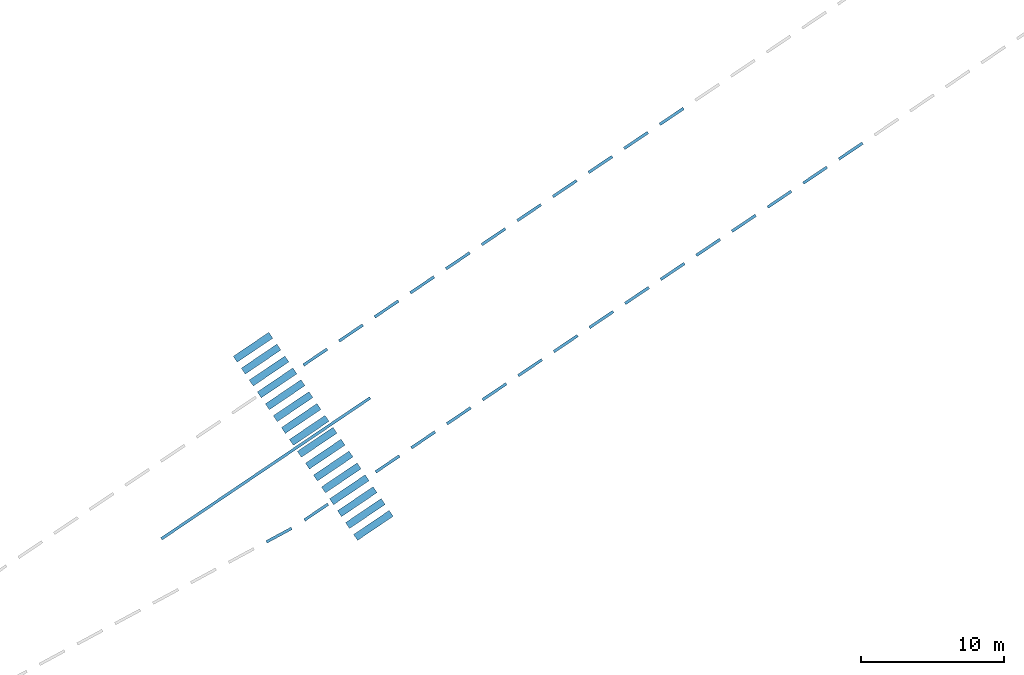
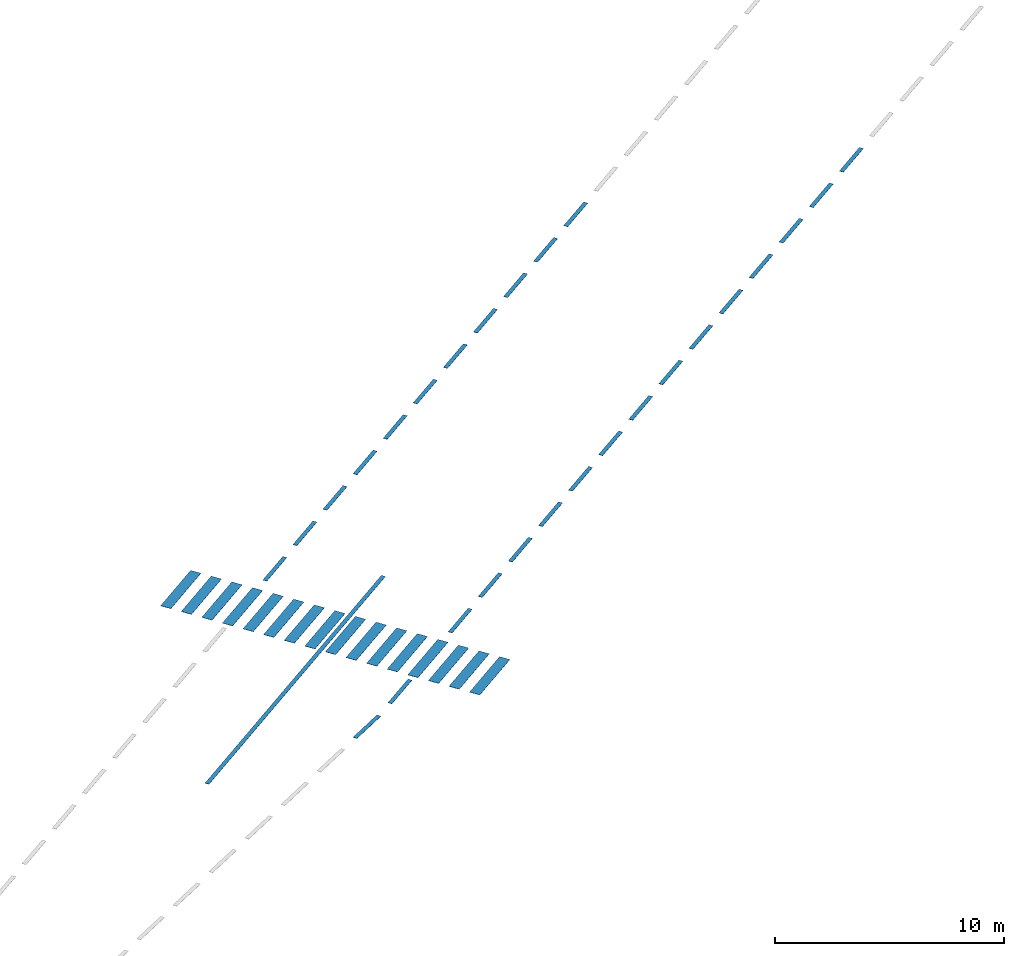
# One storey, part 88 of 157: 44 walls.
"""IFC2X3 building model written with IfcOpenShell, lengths in millimetres."""

from ifc_helpers import new_model, entity, si_unit, converted_unit, derived_unit, direction, frame, frame_2d, origin, origin_2d_with_axis, place, context, subcontext, project, spatial, rectangle, extrude, material, type_object, element, save


model = new_model("IFC2X3")

# Units and contexts
model_context = context("Model", 3, precision=0.01, world=origin(), true_north=direction((6.123031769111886e-17, 1.0)))
body_context = subcontext(model_context, "Body", "Model", "MODEL_VIEW")
ifc_project = project(units=[si_unit("LENGTHUNIT", "METRE", prefix="MILLI"), si_unit("AREAUNIT", "SQUARE_METRE"), si_unit("VOLUMEUNIT", "CUBIC_METRE"), converted_unit("PLANEANGLEUNIT", "DEGREE", entity("IfcRatioMeasure", 0.017453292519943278), si_unit("PLANEANGLEUNIT", "RADIAN"), dimensions=[0, 0, 0, 0, 0, 0, 0]), si_unit("MASSUNIT", "GRAM", prefix="KILO"), derived_unit("MASSDENSITYUNIT", [(si_unit("MASSUNIT", "GRAM", prefix="KILO"), 1), (si_unit("LENGTHUNIT", "METRE"), -3)]), derived_unit("MOMENTOFINERTIAUNIT", [(si_unit("LENGTHUNIT", "METRE"), 4)]), si_unit("TIMEUNIT", "SECOND"), si_unit("FREQUENCYUNIT", "HERTZ"), si_unit("THERMODYNAMICTEMPERATUREUNIT", "DEGREE_CELSIUS"), derived_unit("THERMALTRANSMITTANCEUNIT", [(si_unit("MASSUNIT", "GRAM", prefix="KILO"), 1), (si_unit("THERMODYNAMICTEMPERATUREUNIT", "KELVIN"), -1), (si_unit("TIMEUNIT", "SECOND"), -3)]), derived_unit("THERMALCONDUCTANCEUNIT", [(si_unit("MASSUNIT", "GRAM", prefix="KILO"), 1), (si_unit("LENGTHUNIT", "METRE"), 1), (si_unit("THERMODYNAMICTEMPERATUREUNIT", "KELVIN"), -1), (si_unit("TIMEUNIT", "SECOND"), -3)]), derived_unit("VOLUMETRICFLOWRATEUNIT", [(si_unit("LENGTHUNIT", "METRE"), 3), (si_unit("TIMEUNIT", "SECOND"), -1)]), derived_unit("MASSFLOWRATEUNIT", [(si_unit("MASSUNIT", "GRAM", prefix="KILO"), 1), (si_unit("TIMEUNIT", "SECOND"), -1)]), derived_unit("ROTATIONALFREQUENCYUNIT", [(si_unit("TIMEUNIT", "SECOND"), -1)]), si_unit("ELECTRICCURRENTUNIT", "AMPERE"), si_unit("ELECTRICVOLTAGEUNIT", "VOLT"), si_unit("POWERUNIT", "WATT"), converted_unit("FORCEUNIT", "KIP", entity("IfcRatioMeasure", 2.088543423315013e-05), si_unit("FORCEUNIT", "NEWTON"), dimensions=[1, 1, -2, 0, 0, 0, 0]), si_unit("ILLUMINANCEUNIT", "LUX"), si_unit("LUMINOUSFLUXUNIT", "LUMEN"), si_unit("LUMINOUSINTENSITYUNIT", "CANDELA"), derived_unit("USERDEFINED", [(si_unit("MASSUNIT", "GRAM", prefix="KILO"), -1), (si_unit("LENGTHUNIT", "METRE"), -2), (si_unit("TIMEUNIT", "SECOND"), 3), (si_unit("LUMINOUSFLUXUNIT", "LUMEN"), 1)]), derived_unit("USERDEFINED", [(si_unit("MASSUNIT", "GRAM", prefix="KILO"), 1), (si_unit("LENGTHUNIT", "METRE"), 3), (si_unit("TIMEUNIT", "SECOND"), -3), (si_unit("ELECTRICCURRENTUNIT", "AMPERE"), -2)]), derived_unit("USERDEFINED", [(si_unit("LENGTHUNIT", "METRE"), 2), (si_unit("TIMEUNIT", "SECOND"), -2)]), derived_unit("SOUNDPOWERUNIT", [(si_unit("MASSUNIT", "GRAM", prefix="KILO"), 1), (si_unit("LENGTHUNIT", "METRE"), 2), (si_unit("TIMEUNIT", "SECOND"), -3)]), derived_unit("SOUNDPRESSUREUNIT", [(si_unit("MASSUNIT", "GRAM", prefix="KILO"), 1), (si_unit("LENGTHUNIT", "METRE"), -1), (si_unit("TIMEUNIT", "SECOND"), -2)]), derived_unit("LINEARVELOCITYUNIT", [(si_unit("LENGTHUNIT", "METRE"), 1), (si_unit("TIMEUNIT", "SECOND"), -1)]), si_unit("PRESSUREUNIT", "PASCAL"), derived_unit("USERDEFINED", [(si_unit("LENGTHUNIT", "METRE"), -2), (si_unit("MASSUNIT", "GRAM", prefix="KILO"), 1), (si_unit("TIMEUNIT", "SECOND"), -2)]), derived_unit("LINEARFORCEUNIT", [(si_unit("MASSUNIT", "GRAM", prefix="KILO"), 1), (si_unit("LENGTHUNIT", "METRE"), 1), (si_unit("TIMEUNIT", "SECOND"), -2), (si_unit("LENGTHUNIT", "METRE"), -1)]), derived_unit("PLANARFORCEUNIT", [(si_unit("MASSUNIT", "GRAM", prefix="KILO"), 1), (si_unit("LENGTHUNIT", "METRE"), 1), (si_unit("TIMEUNIT", "SECOND"), -2), (si_unit("LENGTHUNIT", "METRE"), -2)]), derived_unit("SPECIFICHEATCAPACITYUNIT", [(si_unit("LENGTHUNIT", "METRE"), 2), (si_unit("TIMEUNIT", "SECOND"), -2), (si_unit("THERMODYNAMICTEMPERATUREUNIT", "KELVIN"), -1)]), derived_unit("VAPORPERMEABILITYUNIT", [(si_unit("TIMEUNIT", "SECOND"), 1), (si_unit("LENGTHUNIT", "METRE"), -1)]), derived_unit("DYNAMICVISCOSITYUNIT", [(si_unit("MASSUNIT", "GRAM", prefix="KILO"), 1), (si_unit("LENGTHUNIT", "METRE"), -1), (si_unit("TIMEUNIT", "SECOND"), -1)]), derived_unit("THERMALEXPANSIONCOEFFICIENTUNIT", [(si_unit("THERMODYNAMICTEMPERATUREUNIT", "KELVIN"), -1)])], contexts=[model_context])

# Site, building, storey
site_placement = place(None, frame((0.0, 0.0, 0.0), z_axis=(0.0, 0.0, 1.0), x_axis=(0.8191520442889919, 0.5735764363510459, 0.0)))
site = spatial("IfcSite", under=ifc_project, at=site_placement, Name="Default", CompositionType="ELEMENT")
building_placement = place(site_placement, origin())
building = spatial("IfcBuilding", under=site, at=building_placement, CompositionType="ELEMENT")
storey_placement = place(building_placement, origin())
storey = spatial("IfcBuildingStorey", under=building, at=storey_placement, Name="1.EG +0.00", CompositionType="ELEMENT", Elevation=-4.331468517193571e-12)

# Walls
ifc_material = material(Name="road_markirovka")
wall_type_1 = type_object("IfcWallType", Name="81", PredefinedType="NOTDEFINED", material=ifc_material)
wall_1_placement = place(storey_placement, frame((-110577.95410964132, -164288.4628362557, 350.0)))
element("IfcWall", 1, at=wall_1_placement, inside=storey, type_object=wall_type_1, material=ifc_material, Name="81 203486:81 203486", ObjectType="81 203486:81 203486", context=body_context, shape_type="SweptSolid", body=[
    extrude(rectangle(XDim=199.99999999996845, YDim=1999.999999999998, at=frame_2d((1.745803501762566e-11, -8.412825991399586e-12), x_axis=(1.0, 0.0))), frame((1001.5414149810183, 116.81643027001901, 0.0), z_axis=(0.0, 0.0, 1.0), x_axis=(0.016830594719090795, 0.99985835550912, 0.0)), (0.0, 0.0, 1.0), 9.999999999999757),
])
wall_type_2 = type_object("IfcWallType", Name="81", PredefinedType="NOTDEFINED", material=ifc_material)
wall_2_placement = place(storey_placement, frame((-113577.52917616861, -164237.97105209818, 350.0)))
element("IfcWall", 2, at=wall_2_placement, inside=storey, type_object=wall_type_2, material=ifc_material, Name="81 203492:81 203492", ObjectType="81 203492:81 203492", context=body_context, shape_type="SweptSolid", body=[
    extrude(rectangle(XDim=200.0000000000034, YDim=1999.999999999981, at=frame_2d((1.4921397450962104e-13, -8.640199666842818e-12), x_axis=(1.0, 0.0))), frame((1001.5414149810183, 116.81643027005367, 0.0), z_axis=(0.0, 0.0, 1.0), x_axis=(0.016830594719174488, 0.9998583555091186, 0.0)), (0.0, 0.0, 1.0), 9.999999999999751),
])
wall_type_3 = type_object("IfcWallType", Name="81", PredefinedType="NOTDEFINED", material=ifc_material)
wall_3_placement = place(storey_placement, frame((-116577.10424269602, -164187.47926794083, 350.0)))
element("IfcWall", 3, at=wall_3_placement, inside=storey, type_object=wall_type_3, material=ifc_material, Name="81 203493:81 203493", ObjectType="81 203493:81 203493", context=body_context, shape_type="SweptSolid", body=[
    extrude(rectangle(XDim=200.0000000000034, YDim=1999.999999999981, at=frame_2d((1.4921397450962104e-13, -8.640199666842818e-12), x_axis=(1.0, 0.0))), frame((1001.5414149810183, 116.81643027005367, 0.0), z_axis=(0.0, 0.0, 1.0), x_axis=(0.016830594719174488, 0.9998583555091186, 0.0)), (0.0, 0.0, 1.0), 9.999999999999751),
])
wall_type_4 = type_object("IfcWallType", Name="81", PredefinedType="NOTDEFINED", material=ifc_material)
wall_4_placement = place(storey_placement, frame((-119576.67930922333, -164136.9874837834, 350.0)))
element("IfcWall", 4, at=wall_4_placement, inside=storey, type_object=wall_type_4, material=ifc_material, Name="81 203505:81 203505", ObjectType="81 203505:81 203505", context=body_context, shape_type="SweptSolid", body=[
    extrude(rectangle(XDim=200.0000000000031, YDim=2000.000000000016, at=origin_2d_with_axis()), frame((1001.5414149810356, 116.81643027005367, 0.0), z_axis=(0.0, 0.0, 1.0), x_axis=(0.01683059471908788, 0.9998583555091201, 0.0)), (0.0, 0.0, 1.0), 9.999999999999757),
])
wall_type_5 = type_object("IfcWallType", Name="81", PredefinedType="NOTDEFINED", material=ifc_material)
wall_5_placement = place(storey_placement, frame((-122576.25437575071, -164086.495699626, 350.0)))
element("IfcWall", 5, at=wall_5_placement, inside=storey, type_object=wall_type_5, material=ifc_material, Name="81 203507:81 203507", ObjectType="81 203507:81 203507", context=body_context, shape_type="SweptSolid", body=[
    extrude(rectangle(XDim=199.9999999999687, YDim=1999.9999999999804, at=frame_2d((-1.730882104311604e-11, -2.2737367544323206e-13), x_axis=(1.0, 0.0))), frame((1001.5414149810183, 116.81643027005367, 0.0), z_axis=(0.0, 0.0, 1.0), x_axis=(0.0168305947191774, 0.9998583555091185, 0.0)), (0.0, 0.0, 1.0), 9.999999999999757),
])
wall_type_6 = type_object("IfcWallType", Name="81", PredefinedType="NOTDEFINED", material=ifc_material)
wall_6_placement = place(storey_placement, frame((-125575.829442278, -164036.0039154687, 350.0)))
element("IfcWall", 6, at=wall_6_placement, inside=storey, type_object=wall_type_6, material=ifc_material, Name="81 203523:81 203523", ObjectType="81 203523:81 203523", context=body_context, shape_type="SweptSolid", body=[
    extrude(rectangle(XDim=200.0000000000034, YDim=1999.999999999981, at=frame_2d((-2.913225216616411e-13, 1.7337242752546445e-11), x_axis=(1.0, 0.0))), frame((1001.5414149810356, 116.81643027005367, 0.0), z_axis=(0.0, 0.0, 1.0), x_axis=(0.016830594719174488, 0.9998583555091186, 0.0)), (0.0, 0.0, 1.0), 9.999999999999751),
])
wall_type_7 = type_object("IfcWallType", Name="81", PredefinedType="NOTDEFINED", material=ifc_material)
wall_7_placement = place(storey_placement, frame((-128575.40450880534, -163985.5121313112, 350.0)))
element("IfcWall", 7, at=wall_7_placement, inside=storey, type_object=wall_type_7, material=ifc_material, Name="81 203526:81 203526", ObjectType="81 203526:81 203526", context=body_context, shape_type="SweptSolid", body=[
    extrude(rectangle(XDim=200.0000000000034, YDim=1999.9999999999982, at=origin_2d_with_axis()), frame((1001.5414149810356, 116.81643027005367, 0.0), z_axis=(0.0, 0.0, 1.0), x_axis=(0.016830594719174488, 0.9998583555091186, 0.0)), (0.0, 0.0, 1.0), 9.999999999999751),
])
wall_type_8 = type_object("IfcWallType", Name="81", PredefinedType="NOTDEFINED", material=ifc_material)
wall_8_placement = place(storey_placement, frame((-134574.55464186, -163884.5285629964, 350.0)))
element("IfcWall", 8, at=wall_8_placement, inside=storey, type_object=wall_type_8, material=ifc_material, Name="81 203530:81 203530", ObjectType="81 203530:81 203530", context=body_context, shape_type="SweptSolid", body=[
    extrude(rectangle(XDim=200.00000000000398, YDim=2000.0000000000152, at=frame_2d((-1.4210854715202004e-13, 8.697043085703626e-12), x_axis=(1.0, 0.0))), frame((1001.541414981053, 116.81643027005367, 0.0), z_axis=(0.0, 0.0, 1.0), x_axis=(0.016830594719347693, 0.9998583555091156, 0.0)), (0.0, 0.0, 1.0), 9.999999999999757),
])
wall_type_9 = type_object("IfcWallType", Name="81", PredefinedType="NOTDEFINED", material=ifc_material)
wall_9_placement = place(storey_placement, frame((-131574.97957533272, -163935.0203471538, 350.0)))
element("IfcWall", 9, at=wall_9_placement, inside=storey, type_object=wall_type_9, material=ifc_material, Name="81 203533:81 203533", ObjectType="81 203533:81 203533", context=body_context, shape_type="SweptSolid", body=[
    extrude(rectangle(XDim=199.9999999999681, YDim=2000.0000000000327, at=frame_2d((1.7614354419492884e-11, -1.6996182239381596e-11), x_axis=(1.0, 0.0))), frame((1001.5414149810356, 116.81643027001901, 0.0), z_axis=(0.0, 0.0, 1.0), x_axis=(0.01683059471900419, 0.9998583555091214, 0.0)), (0.0, 0.0, 1.0), 9.999999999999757),
])
wall_type_10 = type_object("IfcWallType", Name="81", PredefinedType="NOTDEFINED", material=ifc_material)
wall_10_placement = place(storey_placement, frame((-137574.12970838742, -163834.03677883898, 350.0)))
element("IfcWall", 10, at=wall_10_placement, inside=storey, type_object=wall_type_10, material=ifc_material, Name="81 203534:81 203534", ObjectType="81 203534:81 203534", context=body_context, shape_type="SweptSolid", body=[
    extrude(rectangle(XDim=200.00000000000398, YDim=1999.999999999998, at=frame_2d((-1.4210854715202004e-13, 8.640199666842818e-12), x_axis=(1.0, 0.0))), frame((1001.541414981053, 116.81643027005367, 0.0), z_axis=(0.0, 0.0, 1.0), x_axis=(0.016830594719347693, 0.9998583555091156, 0.0)), (0.0, 0.0, 1.0), 9.999999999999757),
])
wall_type_11 = type_object("IfcWallType", Name="81", PredefinedType="NOTDEFINED", material=ifc_material)
wall_11_placement = place(storey_placement, frame((-140573.70477491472, -163783.54499468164, 350.0)))
element("IfcWall", 11, at=wall_11_placement, inside=storey, type_object=wall_type_11, material=ifc_material, Name="81 203536:81 203536", ObjectType="81 203536:81 203536", context=body_context, shape_type="SweptSolid", body=[
    extrude(rectangle(XDim=200.00000000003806, YDim=1999.999999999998, at=frame_2d((-1.7330137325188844e-11, -2.2737367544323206e-13), x_axis=(1.0, 0.0))), frame((1001.5414149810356, 116.81643027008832, 0.0), z_axis=(0.0, 0.0, 1.0), x_axis=(0.01683059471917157, 0.9998583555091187, 0.0)), (0.0, 0.0, 1.0), 9.999999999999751),
])
wall_type_12 = type_object("IfcWallType", Name="81", PredefinedType="NOTDEFINED", material=ifc_material)
wall_12_placement = place(storey_placement, frame((-146572.85490796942, -163682.5614263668, 350.0)))
element("IfcWall", 12, at=wall_12_placement, inside=storey, type_object=wall_type_12, material=ifc_material, Name="81 203539:81 203539", ObjectType="81 203539:81 203539", context=body_context, shape_type="SweptSolid", body=[
    extrude(rectangle(XDim=199.99999999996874, YDim=2000.0000000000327, at=frame_2d((1.716671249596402e-11, 8.924416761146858e-12), x_axis=(1.0, 0.0))), frame((1001.5414149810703, 116.81643027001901, 0.0), z_axis=(0.0, 0.0, 1.0), x_axis=(0.0168305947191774, 0.9998583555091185, 0.0)), (0.0, 0.0, 1.0), 9.999999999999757),
])
wall_type_13 = type_object("IfcWallType", Name="81", PredefinedType="NOTDEFINED", material=ifc_material)
wall_13_placement = place(storey_placement, frame((-143573.279841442, -163733.05321052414, 350.0)))
element("IfcWall", 13, at=wall_13_placement, inside=storey, type_object=wall_type_13, material=ifc_material, Name="81 203541:81 203541", ObjectType="81 203541:81 203541", context=body_context, shape_type="SweptSolid", body=[
    extrude(rectangle(XDim=199.9999999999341, YDim=2000.0000000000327, at=frame_2d((-1.4210854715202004e-13, 8.640199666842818e-12), x_axis=(1.0, 0.0))), frame((1001.5414149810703, 116.81643027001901, 0.0), z_axis=(0.0, 0.0, 1.0), x_axis=(0.01683059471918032, 0.9998583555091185, 0.0)), (0.0, 0.0, 1.0), 9.999999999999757),
])
wall_type_14 = type_object("IfcWallType", Name="81", PredefinedType="NOTDEFINED", material=ifc_material)
wall_14_placement = place(storey_placement, frame((-149572.42997449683, -163632.0696422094, 350.0)))
element("IfcWall", 14, at=wall_14_placement, inside=storey, type_object=wall_type_14, material=ifc_material, Name="81 203544:81 203544", ObjectType="81 203544:81 203544", context=body_context, shape_type="SweptSolid", body=[
    extrude(rectangle(XDim=200.00000000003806, YDim=2000.0000000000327, at=frame_2d((-1.7330137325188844e-11, -2.8421709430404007e-13), x_axis=(1.0, 0.0))), frame((1001.541414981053, 116.81643027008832, 0.0), z_axis=(0.0, 0.0, 1.0), x_axis=(0.01683059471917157, 0.9998583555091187, 0.0)), (0.0, 0.0, 1.0), 9.999999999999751),
])
wall_type_15 = type_object("IfcWallType", Name="81", PredefinedType="NOTDEFINED", material=ifc_material)
wall_15_placement = place(storey_placement, frame((-155571.58010755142, -163531.08607389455, 350.0)))
element("IfcWall", 15, at=wall_15_placement, inside=storey, type_object=wall_type_15, material=ifc_material, Name="81 203546:81 203546", ObjectType="81 203546:81 203546", context=body_context, shape_type="SweptSolid", body=[
    extrude(rectangle(XDim=199.99999999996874, YDim=1999.999999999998, at=frame_2d((1.730882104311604e-11, 2.2737367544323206e-13), x_axis=(1.0, 0.0))), frame((1001.5414149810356, 116.81643027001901, 0.0), z_axis=(0.0, 0.0, 1.0), x_axis=(0.0168305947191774, 0.9998583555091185, 0.0)), (0.0, 0.0, 1.0), 9.999999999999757),
])
wall_type_16 = type_object("IfcWallType", Name="81", PredefinedType="NOTDEFINED", material=ifc_material)
wall_16_placement = place(storey_placement, frame((-158618.12888085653, -163456.13315830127, 350.0)))
element("IfcWall", 16, at=wall_16_placement, inside=storey, type_object=wall_type_16, material=ifc_material, Name="81 203548:81 203548", ObjectType="81 203548:81 203548", context=body_context, shape_type="SweptSolid", body=[
    extrude(rectangle(XDim=199.99999999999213, YDim=1999.9999999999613, at=frame_2d((-1.7209345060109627e-11, -2.0463630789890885e-12), x_axis=(1.0, 0.0))), frame((1004.855101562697, 214.97450983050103, 0.0), z_axis=(0.0, 0.0, 1.0), x_axis=(0.11564545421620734, 0.9932905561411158, 0.0)), (0.0, 0.0, 1.0), 9.999999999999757),
])
wall_type_17 = type_object("IfcWallType", Name="81", PredefinedType="NOTDEFINED", material=ifc_material)
wall_17_placement = place(storey_placement, frame((-119425.20395675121, -155138.2622842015, 350.0)))
element("IfcWall", 17, at=wall_17_placement, inside=storey, type_object=wall_type_17, material=ifc_material, Name="81 203620:81 203620", ObjectType="81 203620:81 203620", context=body_context, shape_type="SweptSolid", body=[
    extrude(rectangle(XDim=200.0000000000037, YDim=1999.9999999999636, at=frame_2d((-1.4921397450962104e-13, 8.640199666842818e-12), x_axis=(1.0, 0.0))), frame((1001.5414149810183, 116.81643027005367, 0.0), z_axis=(0.0, 0.0, 1.0), x_axis=(0.01683059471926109, 0.9998583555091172, 0.0)), (0.0, 0.0, 1.0), 9.999999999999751),
])
wall_type_18 = type_object("IfcWallType", Name="81", PredefinedType="NOTDEFINED", material=ifc_material)
wall_18_placement = place(storey_placement, frame((-122424.7790232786, -155087.77050004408, 350.0)))
element("IfcWall", 18, at=wall_18_placement, inside=storey, type_object=wall_type_18, material=ifc_material, Name="81 203625:81 203625", ObjectType="81 203625:81 203625", context=body_context, shape_type="SweptSolid", body=[
    extrude(rectangle(XDim=200.0000000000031, YDim=1999.9999999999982, at=frame_2d((1.4921397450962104e-13, -8.640199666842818e-12), x_axis=(1.0, 0.0))), frame((1001.5414149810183, 116.81643027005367, 0.0), z_axis=(0.0, 0.0, 1.0), x_axis=(0.01683059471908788, 0.9998583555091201, 0.0)), (0.0, 0.0, 1.0), 9.999999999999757),
])
wall_type_19 = type_object("IfcWallType", Name="81", PredefinedType="NOTDEFINED", material=ifc_material)
wall_19_placement = place(storey_placement, frame((-131423.50422286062, -154936.29514757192, 350.0)))
element("IfcWall", 19, at=wall_19_placement, inside=storey, type_object=wall_type_19, material=ifc_material, Name="81 203626:81 203626", ObjectType="81 203626:81 203626", context=body_context, shape_type="SweptSolid", body=[
    extrude(rectangle(XDim=200.0000000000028, YDim=2000.0000000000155, at=frame_2d((1.4921397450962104e-13, -8.640199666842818e-12), x_axis=(1.0, 0.0))), frame((1001.5414149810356, 116.81643027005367, 0.0), z_axis=(0.0, 0.0, 1.0), x_axis=(0.016830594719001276, 0.9998583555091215, 0.0)), (0.0, 0.0, 1.0), 9.999999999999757),
])
wall_type_20 = type_object("IfcWallType", Name="81", PredefinedType="NOTDEFINED", material=ifc_material)
wall_20_placement = place(storey_placement, frame((-125424.35408980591, -155037.27871588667, 350.0)))
element("IfcWall", 20, at=wall_20_placement, inside=storey, type_object=wall_type_20, material=ifc_material, Name="81 203628:81 203628", ObjectType="81 203628:81 203628", context=body_context, shape_type="SweptSolid", body=[
    extrude(rectangle(XDim=199.99999999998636, YDim=1999.9999999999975, at=frame_2d((2.5693225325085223e-11, 1.779199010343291e-11), x_axis=(1.0, 0.0))), frame((1001.541414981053, 116.81643027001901, 0.0), z_axis=(0.0, 0.0, 1.0), x_axis=(0.01683059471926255, 0.9998583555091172, 0.0)), (0.0, 0.0, 1.0), 9.999999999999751),
])
wall_type_21 = type_object("IfcWallType", Name="81", PredefinedType="NOTDEFINED", material=ifc_material)
wall_21_placement = place(storey_placement, frame((-128423.92915633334, -154986.78693172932, 350.0)))
element("IfcWall", 21, at=wall_21_placement, inside=storey, type_object=wall_type_21, material=ifc_material, Name="81 203629:81 203629", ObjectType="81 203629:81 203629", context=body_context, shape_type="SweptSolid", body=[
    extrude(rectangle(XDim=200.00000000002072, YDim=1999.999999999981, at=frame_2d((1.4921397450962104e-13, -8.697043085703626e-12), x_axis=(1.0, 0.0))), frame((1001.5414149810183, 116.81643027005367, 0.0), z_axis=(0.0, 0.0, 1.0), x_axis=(0.016830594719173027, 0.9998583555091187, 0.0)), (0.0, 0.0, 1.0), 9.999999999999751),
])
wall_type_22 = type_object("IfcWallType", Name="81", PredefinedType="NOTDEFINED", material=ifc_material)
wall_22_placement = place(storey_placement, frame((-137422.65435591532, -154835.31157925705, 350.0)))
element("IfcWall", 22, at=wall_22_placement, inside=storey, type_object=wall_type_22, material=ifc_material, Name="81 203631:81 203631", ObjectType="81 203631:81 203631", context=body_context, shape_type="SweptSolid", body=[
    extrude(rectangle(XDim=199.99999999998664, YDim=1999.9999999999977, at=frame_2d((8.519407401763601e-12, 8.810729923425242e-12), x_axis=(1.0, 0.0))), frame((1001.541414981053, 116.81643027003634, 0.0), z_axis=(0.0, 0.0, 1.0), x_axis=(0.01683059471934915, 0.9998583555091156, 0.0)), (0.0, 0.0, 1.0), 9.999999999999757),
])
wall_type_23 = type_object("IfcWallType", Name="81", PredefinedType="NOTDEFINED", material=ifc_material)
wall_23_placement = place(storey_placement, frame((-143421.80448897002, -154734.32801094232, 350.0)))
element("IfcWall", 23, at=wall_23_placement, inside=storey, type_object=wall_type_23, material=ifc_material, Name="81 203636:81 203636", ObjectType="81 203636:81 203636", context=body_context, shape_type="SweptSolid", body=[
    extrude(rectangle(XDim=200.0000000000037, YDim=1999.9999999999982, at=frame_2d((-1.7479351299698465e-11, 8.355982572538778e-12), x_axis=(1.0, 0.0))), frame((1001.541414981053, 116.816430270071, 0.0), z_axis=(0.0, 0.0, 1.0), x_axis=(0.01683059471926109, 0.9998583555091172, 0.0)), (0.0, 0.0, 1.0), 9.999999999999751),
])
wall_type_24 = type_object("IfcWallType", Name="81", PredefinedType="NOTDEFINED", material=ifc_material)
wall_24_placement = place(storey_placement, frame((-140422.22942244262, -154784.81979509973, 350.0)))
element("IfcWall", 24, at=wall_24_placement, inside=storey, type_object=wall_type_24, material=ifc_material, Name="81 203637:81 203637", ObjectType="81 203637:81 203637", context=body_context, shape_type="SweptSolid", body=[
    extrude(rectangle(XDim=200.000000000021, YDim=2000.0000000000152, at=frame_2d((-1.7465140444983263e-11, 8.412825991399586e-12), x_axis=(1.0, 0.0))), frame((1001.541414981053, 116.816430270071, 0.0), z_axis=(0.0, 0.0, 1.0), x_axis=(0.016830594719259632, 0.9998583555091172, 0.0)), (0.0, 0.0, 1.0), 9.999999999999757),
])
wall_type_25 = type_object("IfcWallType", Name="81", PredefinedType="NOTDEFINED", material=ifc_material)
wall_25_placement = place(storey_placement, frame((-146421.37955549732, -154683.8362267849, 350.0)))
element("IfcWall", 25, at=wall_25_placement, inside=storey, type_object=wall_type_25, material=ifc_material, Name="81 203640:81 203640", ObjectType="81 203640:81 203640", context=body_context, shape_type="SweptSolid", body=[
    extrude(rectangle(XDim=200.0000000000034, YDim=1999.9999999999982, at=origin_2d_with_axis()), frame((1001.5414149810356, 116.81643027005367, 0.0), z_axis=(0.0, 0.0, 1.0), x_axis=(0.016830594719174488, 0.9998583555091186, 0.0)), (0.0, 0.0, 1.0), 9.999999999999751),
])
wall_type_26 = type_object("IfcWallType", Name="81", PredefinedType="NOTDEFINED", material=ifc_material)
wall_26_placement = place(storey_placement, frame((-149420.9546220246, -154633.34444262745, 350.0)))
element("IfcWall", 26, at=wall_26_placement, inside=storey, type_object=wall_type_26, material=ifc_material, Name="81 203641:81 203641", ObjectType="81 203641:81 203641", context=body_context, shape_type="SweptSolid", body=[
    extrude(rectangle(XDim=199.9999999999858, YDim=2000.000000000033, at=frame_2d((-8.519407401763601e-12, -8.810729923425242e-12), x_axis=(1.0, 0.0))), frame((1001.541414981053, 116.81643027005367, 0.0), z_axis=(0.0, 0.0, 1.0), x_axis=(0.01683059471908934, 0.9998583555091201, 0.0)), (0.0, 0.0, 1.0), 9.999999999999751),
])
wall_type_27 = type_object("IfcWallType", Name="81", PredefinedType="NOTDEFINED", material=ifc_material)
wall_27_placement = place(storey_placement, frame((-134423.0792893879, -154885.80336341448, 350.0)))
element("IfcWall", 27, at=wall_27_placement, inside=storey, type_object=wall_type_27, material=ifc_material, Name="81 203653:81 203653", ObjectType="81 203653:81 203653", context=body_context, shape_type="SweptSolid", body=[
    extrude(rectangle(XDim=200.0000000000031, YDim=2000.0000000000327, at=frame_2d((1.4921397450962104e-13, -8.640199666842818e-12), x_axis=(1.0, 0.0))), frame((1001.541414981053, 116.81643027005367, 0.0), z_axis=(0.0, 0.0, 1.0), x_axis=(0.01683059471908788, 0.9998583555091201, 0.0)), (0.0, 0.0, 1.0), 9.999999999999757),
])
wall_type_28 = type_object("IfcWallType", Name="81", PredefinedType="NOTDEFINED", material=ifc_material)
wall_28_placement = place(storey_placement, frame((-164494.56763089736, -159142.5358251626, 350.0)))
element("IfcWall", 28, at=wall_28_placement, inside=storey, type_object=wall_type_28, material=ifc_material, Name="81 206542:81 206542", ObjectType="81 206542:81 206542", context=body_context, shape_type="SweptSolid", body=[
    extrude(rectangle(XDim=200.00000000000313, YDim=17583.98309197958, at=frame_2d((1.4210854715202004e-13, -9.094947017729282e-12), x_axis=(1.0, 0.0))), frame((8792.429268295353, 247.96028203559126, 0.0), z_axis=(0.0, 0.0, 1.0), x_axis=(0.01683059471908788, 0.9998583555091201, 0.0)), (0.0, 0.0, 1.0), 9.999999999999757),
])
wall_type_29 = type_object("IfcWallType", Name="81", PredefinedType="NOTDEFINED", material=ifc_material)
wall_29_placement = place(storey_placement, frame((-153089.60032903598, -151738.0170571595, 350.0)))
element("IfcWall", 29, at=wall_29_placement, inside=storey, type_object=wall_type_29, material=ifc_material, Name="81 207374:81 207374", ObjectType="81 207374:81 207374", context=body_context, shape_type="SweptSolid", body=[
    extrude(rectangle(XDim=500.00000000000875, YDim=2999.99999999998, at=frame_2d((-8.668621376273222e-12, -1.1368683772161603e-13), x_axis=(1.0, 0.0))), frame((1503.9951819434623, 275.2104809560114, 0.0), z_axis=(0.0, 0.0, 1.0), x_axis=(0.016830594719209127, 0.999858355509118, 0.0)), (0.0, 0.0, 1.0), 9.999999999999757),
])
wall_type_30 = type_object("IfcWallType", Name="81", PredefinedType="NOTDEFINED", material=ifc_material)
wall_30_placement = place(storey_placement, frame((-153123.2615184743, -153737.7337681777, 350.0)))
element("IfcWall", 30, at=wall_30_placement, inside=storey, type_object=wall_type_30, material=ifc_material, Name="81 207376:81 207376", ObjectType="81 207376:81 207376", context=body_context, shape_type="SweptSolid", body=[
    extrude(rectangle(XDim=500.00000000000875, YDim=2999.9999999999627, at=frame_2d((-1.7607248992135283e-11, 1.7053025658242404e-11), x_axis=(1.0, 0.0))), frame((1503.9951819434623, 275.2104809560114, 0.0), z_axis=(0.0, 0.0, 1.0), x_axis=(0.016830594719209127, 0.999858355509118, 0.0)), (0.0, 0.0, 1.0), 9.999999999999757),
])
wall_type_31 = type_object("IfcWallType", Name="81", PredefinedType="NOTDEFINED", material=ifc_material)
wall_31_placement = place(storey_placement, frame((-153156.92270791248, -155737.45047919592, 350.0)))
element("IfcWall", 31, at=wall_31_placement, inside=storey, type_object=wall_type_31, material=ifc_material, Name="81 207377:81 207377", ObjectType="81 207377:81 207377", context=body_context, shape_type="SweptSolid", body=[
    extrude(rectangle(XDim=499.99999999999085, YDim=2999.9999999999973, at=origin_2d_with_axis()), frame((1503.9951819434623, 275.21048095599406, 0.0), z_axis=(0.0, 0.0, 1.0), x_axis=(0.016830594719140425, 0.9998583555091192, 0.0)), (0.0, 0.0, 1.0), 9.999999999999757),
])
wall_type_32 = type_object("IfcWallType", Name="81", PredefinedType="NOTDEFINED", material=ifc_material)
wall_32_placement = place(storey_placement, frame((-153140.0921131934, -154737.5921236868, 350.0)))
element("IfcWall", 32, at=wall_32_placement, inside=storey, type_object=wall_type_32, material=ifc_material, Name="81 207378:81 207378", ObjectType="81 207378:81 207378", context=body_context, shape_type="SweptSolid", body=[
    extrude(rectangle(XDim=499.9999999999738, YDim=2999.9999999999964, at=frame_2d((1.7195134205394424e-11, 8.981260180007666e-12), x_axis=(1.0, 0.0))), frame((1503.9951819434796, 275.2104809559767, 0.0), z_axis=(0.0, 0.0, 1.0), x_axis=(0.01683059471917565, 0.9998583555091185, 0.0)), (0.0, 0.0, 1.0), 9.999999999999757),
])
wall_type_33 = type_object("IfcWallType", Name="81", PredefinedType="NOTDEFINED", material=ifc_material)
wall_33_placement = place(storey_placement, frame((-153173.75330263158, -156737.308834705, 350.0)))
element("IfcWall", 33, at=wall_33_placement, inside=storey, type_object=wall_type_33, material=ifc_material, Name="81 207381:81 207381", ObjectType="81 207381:81 207381", context=body_context, shape_type="SweptSolid", body=[
    extrude(rectangle(XDim=500.0000000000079, YDim=2999.9999999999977, at=frame_2d((-1.715250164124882e-11, -8.86757334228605e-12), x_axis=(1.0, 0.0))), frame((1503.9951819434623, 275.2104809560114, 0.0), z_axis=(0.0, 0.0, 1.0), x_axis=(0.016830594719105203, 0.9998583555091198, 0.0)), (0.0, 0.0, 1.0), 9.999999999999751),
])
wall_type_34 = type_object("IfcWallType", Name="81", PredefinedType="NOTDEFINED", material=ifc_material)
wall_34_placement = place(storey_placement, frame((-153190.5838973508, -157737.16719021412, 350.0)))
element("IfcWall", 34, at=wall_34_placement, inside=storey, type_object=wall_type_34, material=ifc_material, Name="81 207384:81 207384", ObjectType="81 207384:81 207384", context=body_context, shape_type="SweptSolid", body=[
    extrude(rectangle(XDim=500.0000000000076, YDim=3000.0000000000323, at=frame_2d((-1.7038814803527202e-11, -1.7621459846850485e-11), x_axis=(1.0, 0.0))), frame((1503.9951819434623, 275.2104809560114, 0.0), z_axis=(0.0, 0.0, 1.0), x_axis=(0.01683059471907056, 0.9998583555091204, 0.0)), (0.0, 0.0, 1.0), 9.999999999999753),
])
wall_type_35 = type_object("IfcWallType", Name="81", PredefinedType="NOTDEFINED", material=ifc_material)
wall_35_placement = place(storey_placement, frame((-153224.245086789, -159736.88390123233, 350.0)))
element("IfcWall", 35, at=wall_35_placement, inside=storey, type_object=wall_type_35, material=ifc_material, Name="81 207385:81 207385", ObjectType="81 207385:81 207385", context=body_context, shape_type="SweptSolid", body=[
    extrude(rectangle(XDim=499.99999999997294, YDim=3000.000000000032, at=frame_2d((1.7479351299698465e-11, -8.412825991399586e-12), x_axis=(1.0, 0.0))), frame((1503.9951819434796, 275.2104809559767, 0.0), z_axis=(0.0, 0.0, 1.0), x_axis=(0.016830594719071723, 0.9998583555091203, 0.0)), (0.0, 0.0, 1.0), 9.999999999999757),
])
wall_type_36 = type_object("IfcWallType", Name="81", PredefinedType="NOTDEFINED", material=ifc_material)
wall_36_placement = place(storey_placement, frame((-153257.9062762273, -161736.60061225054, 350.0)))
element("IfcWall", 36, at=wall_36_placement, inside=storey, type_object=wall_type_36, material=ifc_material, Name="81 207389:81 207389", ObjectType="81 207389:81 207389", context=body_context, shape_type="SweptSolid", body=[
    extrude(rectangle(XDim=500.0000000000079, YDim=3000.0000000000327, at=frame_2d((-1.2789769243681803e-13, 8.753886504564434e-12), x_axis=(1.0, 0.0))), frame((1503.9951819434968, 275.2104809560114, 0.0), z_axis=(0.0, 0.0, 1.0), x_axis=(0.016830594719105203, 0.9998583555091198, 0.0)), (0.0, 0.0, 1.0), 9.999999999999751),
])
wall_type_37 = type_object("IfcWallType", Name="81", PredefinedType="NOTDEFINED", material=ifc_material)
wall_37_placement = place(storey_placement, frame((-153241.0756815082, -160736.7422567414, 350.0)))
element("IfcWall", 37, at=wall_37_placement, inside=storey, type_object=wall_type_37, material=ifc_material, Name="81 207390:81 207390", ObjectType="81 207390:81 207390", context=body_context, shape_type="SweptSolid", body=[
    extrude(rectangle(XDim=500.00000000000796, YDim=3000.0000000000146, at=frame_2d((-1.7180923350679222e-11, -8.981260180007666e-12), x_axis=(1.0, 0.0))), frame((1503.9951819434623, 275.2104809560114, 0.0), z_axis=(0.0, 0.0, 1.0), x_axis=(0.016830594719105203, 0.9998583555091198, 0.0)), (0.0, 0.0, 1.0), 9.999999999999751),
])
wall_type_38 = type_object("IfcWallType", Name="81", PredefinedType="NOTDEFINED", material=ifc_material)
wall_38_placement = place(storey_placement, frame((-153207.4144920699, -158737.0255457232, 350.0)))
element("IfcWall", 38, at=wall_38_placement, inside=storey, type_object=wall_type_38, material=ifc_material, Name="81 207394:81 207394", ObjectType="81 207394:81 207394", context=body_context, shape_type="SweptSolid", body=[
    extrude(rectangle(XDim=499.9999999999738, YDim=2999.9999999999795, at=frame_2d((1.7195134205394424e-11, 8.981260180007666e-12), x_axis=(1.0, 0.0))), frame((1503.9951819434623, 275.2104809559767, 0.0), z_axis=(0.0, 0.0, 1.0), x_axis=(0.01683059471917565, 0.9998583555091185, 0.0)), (0.0, 0.0, 1.0), 9.999999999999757),
])
wall_type_39 = type_object("IfcWallType", Name="81", PredefinedType="NOTDEFINED", material=ifc_material)
wall_39_placement = place(storey_placement, frame((-153274.7368709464, -162736.45896775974, 350.0)))
element("IfcWall", 39, at=wall_39_placement, inside=storey, type_object=wall_type_39, material=ifc_material, Name="81 207400:81 207400", ObjectType="81 207400:81 207400", context=body_context, shape_type="SweptSolid", body=[
    extrude(rectangle(XDim=499.9999999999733, YDim=2999.9999999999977, at=frame_2d((1.7337242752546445e-11, 4.547473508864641e-13), x_axis=(1.0, 0.0))), frame((1503.9951819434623, 275.2104809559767, 0.0), z_axis=(0.0, 0.0, 1.0), x_axis=(0.01683059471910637, 0.9998583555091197, 0.0)), (0.0, 0.0, 1.0), 9.999999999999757),
])
wall_type_40 = type_object("IfcWallType", Name="81", PredefinedType="NOTDEFINED", material=ifc_material)
wall_40_placement = place(storey_placement, frame((-153291.5674656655, -163736.31732326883, 350.0)))
element("IfcWall", 40, at=wall_40_placement, inside=storey, type_object=wall_type_40, material=ifc_material, Name="81 207401:81 207401", ObjectType="81 207401:81 207401", context=body_context, shape_type="SweptSolid", body=[
    extrude(rectangle(XDim=499.9999999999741, YDim=2999.99999999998, at=frame_2d((3.4361846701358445e-11, 1.7848833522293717e-11), x_axis=(1.0, 0.0))), frame((1503.9951819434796, 275.21048095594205, 0.0), z_axis=(0.0, 0.0, 1.0), x_axis=(0.016830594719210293, 0.999858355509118, 0.0)), (0.0, 0.0, 1.0), 9.999999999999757),
])
wall_type_41 = type_object("IfcWallType", Name="81", PredefinedType="NOTDEFINED", material=ifc_material)
wall_41_placement = place(storey_placement, frame((-153106.43092375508, -152737.87541266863, 350.0)))
element("IfcWall", 41, at=wall_41_placement, inside=storey, type_object=wall_type_41, material=ifc_material, Name="81 207416:81 207416", ObjectType="81 207416:81 207416", context=body_context, shape_type="SweptSolid", body=[
    extrude(rectangle(XDim=500.0000000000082, YDim=2999.9999999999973, at=frame_2d((-8.668621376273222e-12, -1.1368683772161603e-13), x_axis=(1.0, 0.0))), frame((1503.9951819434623, 275.21048095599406, 0.0), z_axis=(0.0, 0.0, 1.0), x_axis=(0.016830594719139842, 0.9998583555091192, 0.0)), (0.0, 0.0, 1.0), 9.999999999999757),
])
wall_type_42 = type_object("IfcWallType", Name="81", PredefinedType="NOTDEFINED", material=ifc_material)
wall_42_placement = place(storey_placement, frame((-153308.39806038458, -164736.1756787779, 350.0)))
element("IfcWall", 42, at=wall_42_placement, inside=storey, type_object=wall_type_42, material=ifc_material, Name="81 207425:81 207425", ObjectType="81 207425:81 207425", context=body_context, shape_type="SweptSolid", body=[
    extrude(rectangle(XDim=500.0000000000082, YDim=2999.999999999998, at=frame_2d((-1.7337242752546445e-11, -4.547473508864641e-13), x_axis=(1.0, 0.0))), frame((1503.9951819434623, 275.2104809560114, 0.0), z_axis=(0.0, 0.0, 1.0), x_axis=(0.016830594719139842, 0.9998583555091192, 0.0)), (0.0, 0.0, 1.0), 9.999999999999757),
])
wall_type_43 = type_object("IfcWallType", Name="81", PredefinedType="NOTDEFINED", material=ifc_material)
wall_43_placement = place(storey_placement, frame((-153325.2286551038, -165736.034034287, 350.0)))
element("IfcWall", 43, at=wall_43_placement, inside=storey, type_object=wall_type_43, material=ifc_material, Name="81 207429:81 207429", ObjectType="81 207429:81 207429", context=body_context, shape_type="SweptSolid", body=[
    extrude(rectangle(XDim=499.9999999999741, YDim=2999.9999999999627, at=frame_2d((-2.8421709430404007e-13, 1.7394086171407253e-11), x_axis=(1.0, 0.0))), frame((1503.9951819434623, 275.2104809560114, 0.0), z_axis=(0.0, 0.0, 1.0), x_axis=(0.016830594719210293, 0.999858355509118, 0.0)), (0.0, 0.0, 1.0), 9.999999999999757),
])
wall_type_44 = type_object("IfcWallType", Name="81", PredefinedType="NOTDEFINED", material=ifc_material)
wall_44_placement = place(storey_placement, frame((-153342.0592498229, -166735.89238979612, 350.0)))
element("IfcWall", 44, at=wall_44_placement, inside=storey, type_object=wall_type_44, material=ifc_material, Name="81 207513:81 207513", ObjectType="81 207513:81 207513", context=body_context, shape_type="SweptSolid", body=[
    extrude(rectangle(XDim=500.0000000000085, YDim=2999.999999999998, at=frame_2d((1.7479351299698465e-11, -8.29913915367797e-12), x_axis=(1.0, 0.0))), frame((1503.9951819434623, 275.2104809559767, 0.0), z_axis=(0.0, 0.0, 1.0), x_axis=(0.016830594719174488, 0.9998583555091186, 0.0)), (0.0, 0.0, 1.0), 9.999999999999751),
])

save(model, "model.ifc")
